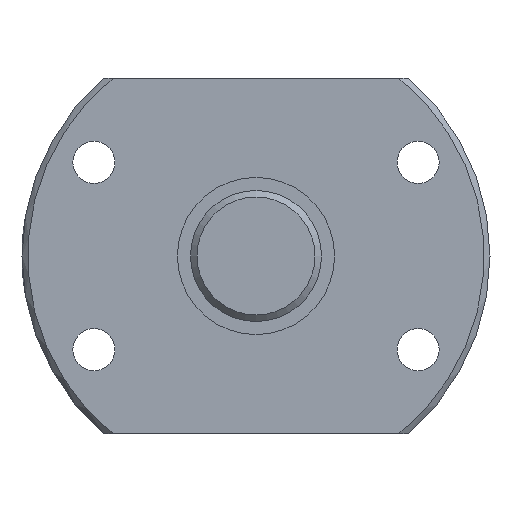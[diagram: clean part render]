
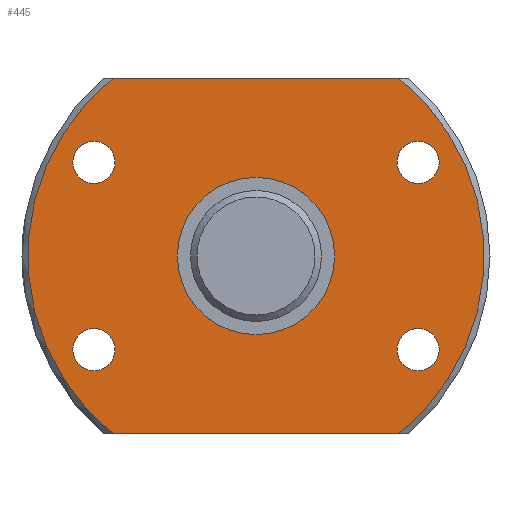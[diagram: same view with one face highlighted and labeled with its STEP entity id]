
A CAD part, left-side view. The second image highlights one B-rep face of the part: STEP entity #445.
In plain terms, the highlighted planar face has unit normal (-1, 0, 0).
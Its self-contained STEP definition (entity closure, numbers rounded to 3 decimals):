
#32=LINE('',#786,#40);
#33=LINE('',#790,#41);
#40=VECTOR('',#613,1000.);
#41=VECTOR('',#616,1000.);
#66=PLANE('',#515);
#102=ORIENTED_EDGE('',*,*,#196,.T.);
#103=ORIENTED_EDGE('',*,*,#197,.F.);
#104=ORIENTED_EDGE('',*,*,#198,.F.);
#105=ORIENTED_EDGE('',*,*,#199,.F.);
#106=ORIENTED_EDGE('',*,*,#186,.F.);
#107=ORIENTED_EDGE('',*,*,#200,.T.);
#108=ORIENTED_EDGE('',*,*,#201,.T.);
#109=ORIENTED_EDGE('',*,*,#202,.T.);
#110=ORIENTED_EDGE('',*,*,#203,.T.);
#186=EDGE_CURVE('',#234,#235,#273,.T.);
#196=EDGE_CURVE('',#244,#244,#278,.T.);
#197=EDGE_CURVE('',#245,#234,#32,.T.);
#198=EDGE_CURVE('',#246,#245,#279,.T.);
#199=EDGE_CURVE('',#235,#246,#33,.T.);
#200=EDGE_CURVE('',#247,#247,#280,.T.);
#201=EDGE_CURVE('',#248,#248,#281,.T.);
#202=EDGE_CURVE('',#249,#249,#282,.T.);
#203=EDGE_CURVE('',#250,#250,#283,.T.);
#234=VERTEX_POINT('',#738);
#235=VERTEX_POINT('',#740);
#244=VERTEX_POINT('',#785);
#245=VERTEX_POINT('',#787);
#246=VERTEX_POINT('',#789);
#247=VERTEX_POINT('',#792);
#248=VERTEX_POINT('',#794);
#249=VERTEX_POINT('',#796);
#250=VERTEX_POINT('',#798);
#273=CIRCLE('',#508,24.375);
#278=CIRCLE('',#516,8.4);
#279=CIRCLE('',#517,24.375);
#280=CIRCLE('',#518,2.25);
#281=CIRCLE('',#519,2.25);
#282=CIRCLE('',#520,2.25);
#283=CIRCLE('',#521,2.25);
#314=EDGE_LOOP('',(#102));
#315=EDGE_LOOP('',(#103,#104,#105,#106));
#316=EDGE_LOOP('',(#107));
#317=EDGE_LOOP('',(#108));
#318=EDGE_LOOP('',(#109));
#319=EDGE_LOOP('',(#110));
#376=FACE_BOUND('',#314,.T.);
#377=FACE_BOUND('',#315,.T.);
#378=FACE_BOUND('',#316,.T.);
#379=FACE_BOUND('',#317,.T.);
#380=FACE_BOUND('',#318,.T.);
#381=FACE_BOUND('',#319,.T.);
#445=ADVANCED_FACE('',(#376,#377,#378,#379,#380,#381),#66,.T.);
#508=AXIS2_PLACEMENT_3D('',#739,#593,#594);
#515=AXIS2_PLACEMENT_3D('',#783,#609,#610);
#516=AXIS2_PLACEMENT_3D('',#784,#611,#612);
#517=AXIS2_PLACEMENT_3D('',#788,#614,#615);
#518=AXIS2_PLACEMENT_3D('',#791,#617,#618);
#519=AXIS2_PLACEMENT_3D('',#793,#619,#620);
#520=AXIS2_PLACEMENT_3D('',#795,#621,#622);
#521=AXIS2_PLACEMENT_3D('',#797,#623,#624);
#593=DIRECTION('',(1.,0.,0.));
#594=DIRECTION('',(0.,0.,-1.));
#609=DIRECTION('',(-1.,0.,0.));
#610=DIRECTION('',(0.,0.,1.));
#611=DIRECTION('',(1.,0.,0.));
#612=DIRECTION('',(0.,0.,-1.));
#613=DIRECTION('',(0.,-1.,0.));
#614=DIRECTION('',(1.,0.,0.));
#615=DIRECTION('',(0.,0.,-1.));
#616=DIRECTION('',(0.,1.,0.));
#617=DIRECTION('',(1.,0.,0.));
#618=DIRECTION('',(0.,0.,-1.));
#619=DIRECTION('',(1.,0.,0.));
#620=DIRECTION('',(0.,0.,-1.));
#621=DIRECTION('',(1.,0.,0.));
#622=DIRECTION('',(0.,0.,-1.));
#623=DIRECTION('',(1.,0.,0.));
#624=DIRECTION('',(0.,0.,-1.));
#738=CARTESIAN_POINT('',(0.,-15.269,19.));
#739=CARTESIAN_POINT('',(0.,0.,0.));
#740=CARTESIAN_POINT('',(0.,-15.269,-19.));
#783=CARTESIAN_POINT('',(0.,24.375,0.));
#784=CARTESIAN_POINT('',(0.,0.,0.));
#785=CARTESIAN_POINT('',(0.,0.,-8.4));
#786=CARTESIAN_POINT('',(0.,25.1,19.));
#787=CARTESIAN_POINT('',(0.,15.269,19.));
#788=CARTESIAN_POINT('',(0.,0.,0.));
#789=CARTESIAN_POINT('',(0.,15.269,-19.));
#790=CARTESIAN_POINT('',(0.,-25.1,-19.));
#791=CARTESIAN_POINT('',(0.,-17.321,10.));
#792=CARTESIAN_POINT('',(0.,-17.321,7.75));
#793=CARTESIAN_POINT('',(0.,-17.321,-10.));
#794=CARTESIAN_POINT('',(0.,-17.321,-12.25));
#795=CARTESIAN_POINT('',(0.,17.321,-10.));
#796=CARTESIAN_POINT('',(0.,17.321,-12.25));
#797=CARTESIAN_POINT('',(0.,17.321,10.));
#798=CARTESIAN_POINT('',(0.,17.321,7.75));
